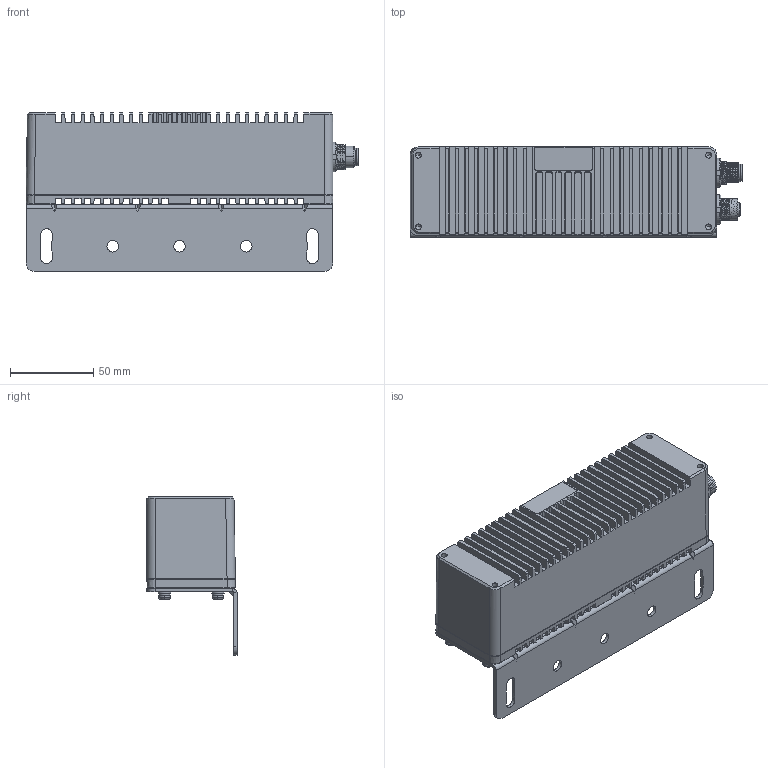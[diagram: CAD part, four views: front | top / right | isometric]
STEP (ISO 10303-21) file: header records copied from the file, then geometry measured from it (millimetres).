
FILE_DESCRIPTION((''),'2;1');
FILE_NAME('00-R317_SW0001','2025-06-13T11:24:20',('zouzichao'),(''),'CREO PARAMETRIC BY PTC INC, 2020044','CREO PARAMETRIC BY PTC INC, 2020044','');
FILE_SCHEMA(('CONFIG_CONTROL_DESIGN'));
Length unit declared in the file: millimetre
Products named in the file (1): 00-R317_SW0001
Bounding box: 199 x 54 x 95 mm (x, y, z)
Surface area: 96379.8 mm2 (no closed solid volume)
Topology: 0 solids, 34 shells, 1011 faces, 3187 edges, 2191 vertices
Faces by surface type: plane 609, cylinder 212, cone 105, bspline 69, torus 16
Entity records: 45533 total; most frequent: CARTESIAN_POINT 18212, ORIENTED_EDGE 5677, DIRECTION 5208, EDGE_CURVE 3175, VERTEX_POINT 2191, VECTOR 1972, LINE 1972, AXIS2_PLACEMENT_3D 1618
